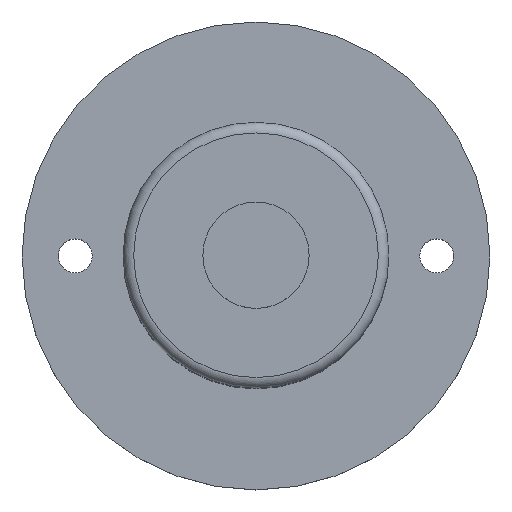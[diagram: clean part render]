
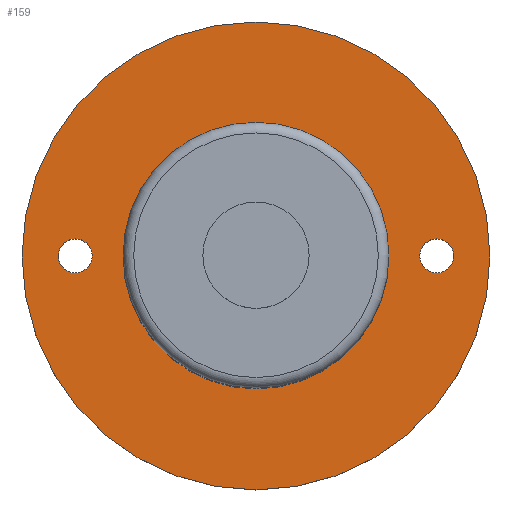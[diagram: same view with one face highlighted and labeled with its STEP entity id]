
A CAD part, top view. The second image highlights one B-rep face of the part: STEP entity #159.
In plain terms, the highlighted planar face has unit normal (0, 0, 1).
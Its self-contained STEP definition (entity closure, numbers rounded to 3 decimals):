
#22 = VERTEX_POINT('',#23);
#23 = CARTESIAN_POINT('',(6.25,0.,19.5));
#32 = CYLINDRICAL_SURFACE('',#33,6.25);
#33 = AXIS2_PLACEMENT_3D('',#34,#35,#36);
#34 = CARTESIAN_POINT('',(0.,0.,19.4));
#35 = DIRECTION('',(0.,0.,1.));
#36 = DIRECTION('',(1.,0.,-0.));
#79 = EDGE_CURVE('',#22,#22,#80,.T.);
#80 = SURFACE_CURVE('',#81,(#86,#93),.PCURVE_S1.);
#81 = CIRCLE('',#82,6.25);
#82 = AXIS2_PLACEMENT_3D('',#83,#84,#85);
#83 = CARTESIAN_POINT('',(0.,0.,19.5));
#84 = DIRECTION('',(0.,0.,1.));
#85 = DIRECTION('',(1.,0.,-0.));
#86 = PCURVE('',#32,#87);
#87 = DEFINITIONAL_REPRESENTATION('',(#88),#92);
#88 = LINE('',#89,#90);
#89 = CARTESIAN_POINT('',(0.,0.1));
#90 = VECTOR('',#91,1.);
#91 = DIRECTION('',(1.,0.));
#92 = ( GEOMETRIC_REPRESENTATION_CONTEXT(2) 
PARAMETRIC_REPRESENTATION_CONTEXT() REPRESENTATION_CONTEXT('2D SPACE',''
  ) );
#93 = PCURVE('',#94,#99);
#94 = PLANE('',#95);
#95 = AXIS2_PLACEMENT_3D('',#96,#97,#98);
#96 = CARTESIAN_POINT('',(0.,0.,19.5));
#97 = DIRECTION('',(0.,0.,1.));
#98 = DIRECTION('',(1.,0.,-0.));
#99 = DEFINITIONAL_REPRESENTATION('',(#100),#104);
#100 = CIRCLE('',#101,6.25);
#101 = AXIS2_PLACEMENT_2D('',#102,#103);
#102 = CARTESIAN_POINT('',(0.,0.));
#103 = DIRECTION('',(1.,0.));
#104 = ( GEOMETRIC_REPRESENTATION_CONTEXT(2) 
PARAMETRIC_REPRESENTATION_CONTEXT() REPRESENTATION_CONTEXT('2D SPACE',''
  ) );
#159 = ADVANCED_FACE('',(#160,#191,#222,#225),#94,.T.);
#160 = FACE_BOUND('',#161,.T.);
#161 = EDGE_LOOP('',(#162));
#162 = ORIENTED_EDGE('',*,*,#163,.T.);
#163 = EDGE_CURVE('',#164,#164,#166,.T.);
#164 = VERTEX_POINT('',#165);
#165 = CARTESIAN_POINT('',(11.,0.,19.5));
#166 = SURFACE_CURVE('',#167,(#172,#179),.PCURVE_S1.);
#167 = CIRCLE('',#168,11.);
#168 = AXIS2_PLACEMENT_3D('',#169,#170,#171);
#169 = CARTESIAN_POINT('',(0.,0.,19.5));
#170 = DIRECTION('',(0.,0.,1.));
#171 = DIRECTION('',(1.,0.,-0.));
#172 = PCURVE('',#94,#173);
#173 = DEFINITIONAL_REPRESENTATION('',(#174),#178);
#174 = CIRCLE('',#175,11.);
#175 = AXIS2_PLACEMENT_2D('',#176,#177);
#176 = CARTESIAN_POINT('',(0.,0.));
#177 = DIRECTION('',(1.,0.));
#178 = ( GEOMETRIC_REPRESENTATION_CONTEXT(2) 
PARAMETRIC_REPRESENTATION_CONTEXT() REPRESENTATION_CONTEXT('2D SPACE',''
  ) );
#179 = PCURVE('',#180,#185);
#180 = CYLINDRICAL_SURFACE('',#181,11.);
#181 = AXIS2_PLACEMENT_3D('',#182,#183,#184);
#182 = CARTESIAN_POINT('',(0.,0.,18.));
#183 = DIRECTION('',(0.,0.,1.));
#184 = DIRECTION('',(1.,0.,-0.));
#185 = DEFINITIONAL_REPRESENTATION('',(#186),#190);
#186 = LINE('',#187,#188);
#187 = CARTESIAN_POINT('',(0.,1.5));
#188 = VECTOR('',#189,1.);
#189 = DIRECTION('',(1.,0.));
#190 = ( GEOMETRIC_REPRESENTATION_CONTEXT(2) 
PARAMETRIC_REPRESENTATION_CONTEXT() REPRESENTATION_CONTEXT('2D SPACE',''
  ) );
#191 = FACE_BOUND('',#192,.T.);
#192 = EDGE_LOOP('',(#193));
#193 = ORIENTED_EDGE('',*,*,#194,.F.);
#194 = EDGE_CURVE('',#195,#195,#197,.T.);
#195 = VERTEX_POINT('',#196);
#196 = CARTESIAN_POINT('',(-7.7,0.,19.5));
#197 = SURFACE_CURVE('',#198,(#203,#210),.PCURVE_S1.);
#198 = CIRCLE('',#199,0.8);
#199 = AXIS2_PLACEMENT_3D('',#200,#201,#202);
#200 = CARTESIAN_POINT('',(-8.5,0.,19.5));
#201 = DIRECTION('',(0.,0.,1.));
#202 = DIRECTION('',(1.,0.,-0.));
#203 = PCURVE('',#94,#204);
#204 = DEFINITIONAL_REPRESENTATION('',(#205),#209);
#205 = CIRCLE('',#206,0.8);
#206 = AXIS2_PLACEMENT_2D('',#207,#208);
#207 = CARTESIAN_POINT('',(-8.5,0.));
#208 = DIRECTION('',(1.,0.));
#209 = ( GEOMETRIC_REPRESENTATION_CONTEXT(2) 
PARAMETRIC_REPRESENTATION_CONTEXT() REPRESENTATION_CONTEXT('2D SPACE',''
  ) );
#210 = PCURVE('',#211,#216);
#211 = CYLINDRICAL_SURFACE('',#212,0.8);
#212 = AXIS2_PLACEMENT_3D('',#213,#214,#215);
#213 = CARTESIAN_POINT('',(-8.5,0.,17.));
#214 = DIRECTION('',(0.,0.,1.));
#215 = DIRECTION('',(1.,0.,-0.));
#216 = DEFINITIONAL_REPRESENTATION('',(#217),#221);
#217 = LINE('',#218,#219);
#218 = CARTESIAN_POINT('',(0.,2.5));
#219 = VECTOR('',#220,1.);
#220 = DIRECTION('',(1.,0.));
#221 = ( GEOMETRIC_REPRESENTATION_CONTEXT(2) 
PARAMETRIC_REPRESENTATION_CONTEXT() REPRESENTATION_CONTEXT('2D SPACE',''
  ) );
#222 = FACE_BOUND('',#223,.T.);
#223 = EDGE_LOOP('',(#224));
#224 = ORIENTED_EDGE('',*,*,#79,.F.);
#225 = FACE_BOUND('',#226,.T.);
#226 = EDGE_LOOP('',(#227));
#227 = ORIENTED_EDGE('',*,*,#228,.F.);
#228 = EDGE_CURVE('',#229,#229,#231,.T.);
#229 = VERTEX_POINT('',#230);
#230 = CARTESIAN_POINT('',(9.3,0.,19.5));
#231 = SURFACE_CURVE('',#232,(#237,#244),.PCURVE_S1.);
#232 = CIRCLE('',#233,0.8);
#233 = AXIS2_PLACEMENT_3D('',#234,#235,#236);
#234 = CARTESIAN_POINT('',(8.5,0.,19.5));
#235 = DIRECTION('',(0.,0.,1.));
#236 = DIRECTION('',(1.,0.,-0.));
#237 = PCURVE('',#94,#238);
#238 = DEFINITIONAL_REPRESENTATION('',(#239),#243);
#239 = CIRCLE('',#240,0.8);
#240 = AXIS2_PLACEMENT_2D('',#241,#242);
#241 = CARTESIAN_POINT('',(8.5,0.));
#242 = DIRECTION('',(1.,0.));
#243 = ( GEOMETRIC_REPRESENTATION_CONTEXT(2) 
PARAMETRIC_REPRESENTATION_CONTEXT() REPRESENTATION_CONTEXT('2D SPACE',''
  ) );
#244 = PCURVE('',#245,#250);
#245 = CYLINDRICAL_SURFACE('',#246,0.8);
#246 = AXIS2_PLACEMENT_3D('',#247,#248,#249);
#247 = CARTESIAN_POINT('',(8.5,0.,17.));
#248 = DIRECTION('',(0.,0.,1.));
#249 = DIRECTION('',(1.,0.,-0.));
#250 = DEFINITIONAL_REPRESENTATION('',(#251),#255);
#251 = LINE('',#252,#253);
#252 = CARTESIAN_POINT('',(0.,2.5));
#253 = VECTOR('',#254,1.);
#254 = DIRECTION('',(1.,0.));
#255 = ( GEOMETRIC_REPRESENTATION_CONTEXT(2) 
PARAMETRIC_REPRESENTATION_CONTEXT() REPRESENTATION_CONTEXT('2D SPACE',''
  ) );
